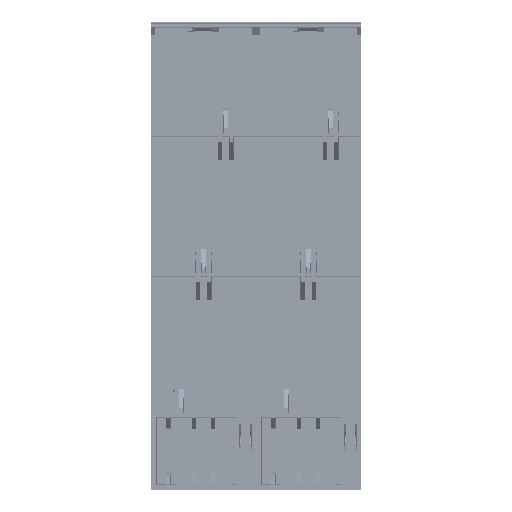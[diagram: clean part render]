
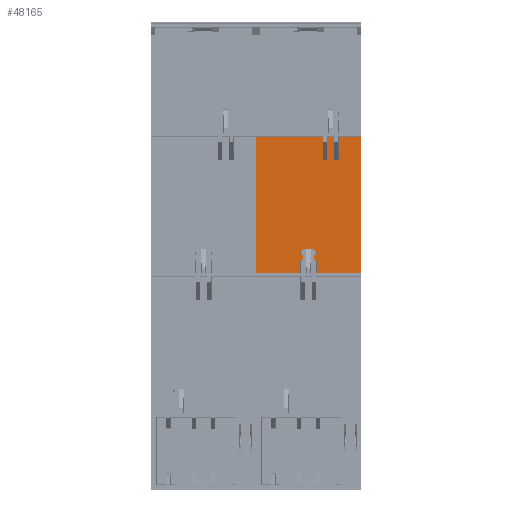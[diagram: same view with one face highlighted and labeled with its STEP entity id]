
A CAD part, front view. The second image highlights one B-rep face of the part: STEP entity #48165.
In plain terms, the highlighted planar face has unit normal (0, -1, 0).
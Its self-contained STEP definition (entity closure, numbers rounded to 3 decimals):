
#2067 = EDGE_CURVE ( 'NONE', #17362, #179197, #11392, .T. ) ;
#8464 = CARTESIAN_POINT ( 'NONE',  ( 269.594, -4.5, 151.209 ) ) ;
#9373 = CARTESIAN_POINT ( 'NONE',  ( 22.5, -4.5, 200. ) ) ;
#11392 = LINE ( 'NONE', #8464, #82287 ) ;
#13222 = LINE ( 'NONE', #116570, #190675 ) ;
#14003 = ORIENTED_EDGE ( 'NONE', *, *, #59897, .T. ) ;
#17362 = VERTEX_POINT ( 'NONE', #61774 ) ;
#17652 = VERTEX_POINT ( 'NONE', #20502 ) ;
#20502 = CARTESIAN_POINT ( 'NONE',  ( 51.059, -4.5, 141.175 ) ) ;
#25132 = ORIENTED_EDGE ( 'NONE', *, *, #50299, .T. ) ;
#25761 = CARTESIAN_POINT ( 'NONE',  ( 67.5, -4.5, 93. ) ) ;
#26534 = EDGE_LOOP ( 'NONE', ( #41611, #14003, #61065, #76577, #80756, #99113, #87334, #116342, #43903, #85644, #94325, #25132 ) ) ;
#26728 = LINE ( 'NONE', #150722, #95020 ) ;
#28251 = EDGE_CURVE ( 'NONE', #61991, #121087, #114344, .T. ) ;
#30403 = DIRECTION ( 'NONE',  ( -1., 0., 0. ) ) ;
#32999 = VECTOR ( 'NONE', #124329, 1000. ) ;
#36215 = DIRECTION ( 'NONE',  ( -1., 0., 0. ) ) ;
#38902 = LINE ( 'NONE', #75496, #152908 ) ;
#39956 = LINE ( 'NONE', #9373, #181718 ) ;
#40451 = VERTEX_POINT ( 'NONE', #56060 ) ;
#41611 = ORIENTED_EDGE ( 'NONE', *, *, #153960, .T. ) ;
#43903 = ORIENTED_EDGE ( 'NONE', *, *, #141586, .T. ) ;
#48165 = ADVANCED_FACE ( 'NONE', ( #160941 ), #75342, .T. ) ;
#50299 = EDGE_CURVE ( 'NONE', #179197, #50402, #38902, .T. ) ;
#50402 = VERTEX_POINT ( 'NONE', #110809 ) ;
#53695 = CARTESIAN_POINT ( 'NONE',  ( 22.5, -4.5, 151.209 ) ) ;
#56060 = CARTESIAN_POINT ( 'NONE',  ( 55.959, -4.5, 141.175 ) ) ;
#59897 = EDGE_CURVE ( 'NONE', #17652, #61991, #26728, .T. ) ;
#61065 = ORIENTED_EDGE ( 'NONE', *, *, #28251, .T. ) ;
#61774 = CARTESIAN_POINT ( 'NONE',  ( 55.959, -4.5, 151.209 ) ) ;
#61991 = VERTEX_POINT ( 'NONE', #142820 ) ;
#62246 = CARTESIAN_POINT ( 'NONE',  ( 67.5, -4.5, 151.209 ) ) ;
#62832 = CARTESIAN_POINT ( 'NONE',  ( 22.5, -4.5, 93. ) ) ;
#62843 = VERTEX_POINT ( 'NONE', #209787 ) ;
#63807 = VECTOR ( 'NONE', #30403, 1000. ) ;
#64489 = LINE ( 'NONE', #170584, #112621 ) ;
#75342 = PLANE ( 'NONE',  #175615 ) ;
#75496 = CARTESIAN_POINT ( 'NONE',  ( 53.041, -4.5, 200.5 ) ) ;
#75644 = DIRECTION ( 'NONE',  ( 0., 0., 1. ) ) ;
#76577 = ORIENTED_EDGE ( 'NONE', *, *, #146211, .T. ) ;
#77871 = CARTESIAN_POINT ( 'NONE',  ( 269.594, -4.5, 151.209 ) ) ;
#80327 = VECTOR ( 'NONE', #197720, 1000. ) ;
#80756 = ORIENTED_EDGE ( 'NONE', *, *, #95850, .T. ) ;
#82287 = VECTOR ( 'NONE', #184118, 1000. ) ;
#82453 = CARTESIAN_POINT ( 'NONE',  ( 57.941, -4.5, 151.209 ) ) ;
#85644 = ORIENTED_EDGE ( 'NONE', *, *, #156128, .T. ) ;
#85912 = VERTEX_POINT ( 'NONE', #25761 ) ;
#87334 = ORIENTED_EDGE ( 'NONE', *, *, #186863, .T. ) ;
#91208 = VECTOR ( 'NONE', #200569, 1000. ) ;
#94325 = ORIENTED_EDGE ( 'NONE', *, *, #2067, .T. ) ;
#95020 = VECTOR ( 'NONE', #167058, 1000. ) ;
#95850 = EDGE_CURVE ( 'NONE', #135581, #85912, #13222, .T. ) ;
#99113 = ORIENTED_EDGE ( 'NONE', *, *, #149635, .T. ) ;
#99619 = DIRECTION ( 'NONE',  ( 1., 0., 0. ) ) ;
#102131 = CARTESIAN_POINT ( 'NONE',  ( 57.941, -4.5, 200.5 ) ) ;
#103693 = EDGE_CURVE ( 'NONE', #180161, #62843, #171647, .T. ) ;
#108896 = CARTESIAN_POINT ( 'NONE',  ( 55.959, -4.5, 200.5 ) ) ;
#109439 = DIRECTION ( 'NONE',  ( 0., 0., -1. ) ) ;
#110809 = CARTESIAN_POINT ( 'NONE',  ( 53.041, -4.5, 141.175 ) ) ;
#111621 = LINE ( 'NONE', #206433, #32999 ) ;
#112621 = VECTOR ( 'NONE', #186824, 1000. ) ;
#114344 = LINE ( 'NONE', #77871, #63807 ) ;
#116342 = ORIENTED_EDGE ( 'NONE', *, *, #103693, .T. ) ;
#116570 = CARTESIAN_POINT ( 'NONE',  ( 70.5, -4.5, 93. ) ) ;
#117642 = VECTOR ( 'NONE', #36215, 1000. ) ;
#121087 = VERTEX_POINT ( 'NONE', #53695 ) ;
#122171 = VERTEX_POINT ( 'NONE', #62246 ) ;
#122675 = CARTESIAN_POINT ( 'NONE',  ( 269.594, -4.5, 151.209 ) ) ;
#124329 = DIRECTION ( 'NONE',  ( -1., 0., 0. ) ) ;
#127281 = LINE ( 'NONE', #108896, #188271 ) ;
#135581 = VERTEX_POINT ( 'NONE', #62832 ) ;
#140468 = DIRECTION ( 'NONE',  ( 0., 0., -1. ) ) ;
#141586 = EDGE_CURVE ( 'NONE', #62843, #40451, #111621, .T. ) ;
#142820 = CARTESIAN_POINT ( 'NONE',  ( 51.059, -4.5, 151.209 ) ) ;
#146211 = EDGE_CURVE ( 'NONE', #121087, #135581, #39956, .T. ) ;
#149635 = EDGE_CURVE ( 'NONE', #85912, #122171, #64489, .T. ) ;
#150722 = CARTESIAN_POINT ( 'NONE',  ( 51.059, -4.5, 200.5 ) ) ;
#152908 = VECTOR ( 'NONE', #109439, 1000. ) ;
#153960 = EDGE_CURVE ( 'NONE', #50402, #17652, #160779, .T. ) ;
#156128 = EDGE_CURVE ( 'NONE', #40451, #17362, #127281, .T. ) ;
#157517 = DIRECTION ( 'NONE',  ( 0., -1., 0. ) ) ;
#160779 = LINE ( 'NONE', #167255, #117642 ) ;
#160941 = FACE_OUTER_BOUND ( 'NONE', #26534, .T. ) ;
#167058 = DIRECTION ( 'NONE',  ( 0., 0., 1. ) ) ;
#167255 = CARTESIAN_POINT ( 'NONE',  ( 269.594, -4.5, 141.175 ) ) ;
#170584 = CARTESIAN_POINT ( 'NONE',  ( 67.5, -4.5, 200.5 ) ) ;
#171647 = LINE ( 'NONE', #102131, #80327 ) ;
#173666 = DIRECTION ( 'NONE',  ( 0., 0., -1. ) ) ;
#175615 = AXIS2_PLACEMENT_3D ( 'NONE', #188661, #157517, #140468 ) ;
#179197 = VERTEX_POINT ( 'NONE', #204585 ) ;
#180161 = VERTEX_POINT ( 'NONE', #82453 ) ;
#181718 = VECTOR ( 'NONE', #173666, 1000. ) ;
#184118 = DIRECTION ( 'NONE',  ( -1., 0., 0. ) ) ;
#186824 = DIRECTION ( 'NONE',  ( 0., 0., 1. ) ) ;
#186863 = EDGE_CURVE ( 'NONE', #122171, #180161, #202535, .T. ) ;
#188271 = VECTOR ( 'NONE', #75644, 1000. ) ;
#188661 = CARTESIAN_POINT ( 'NONE',  ( 269.594, -4.5, 200.5 ) ) ;
#190675 = VECTOR ( 'NONE', #99619, 1000. ) ;
#197720 = DIRECTION ( 'NONE',  ( 0., 0., -1. ) ) ;
#200569 = DIRECTION ( 'NONE',  ( -1., 0., 0. ) ) ;
#202535 = LINE ( 'NONE', #122675, #91208 ) ;
#204585 = CARTESIAN_POINT ( 'NONE',  ( 53.041, -4.5, 151.209 ) ) ;
#206433 = CARTESIAN_POINT ( 'NONE',  ( 269.594, -4.5, 141.175 ) ) ;
#209787 = CARTESIAN_POINT ( 'NONE',  ( 57.941, -4.5, 141.175 ) ) ;
